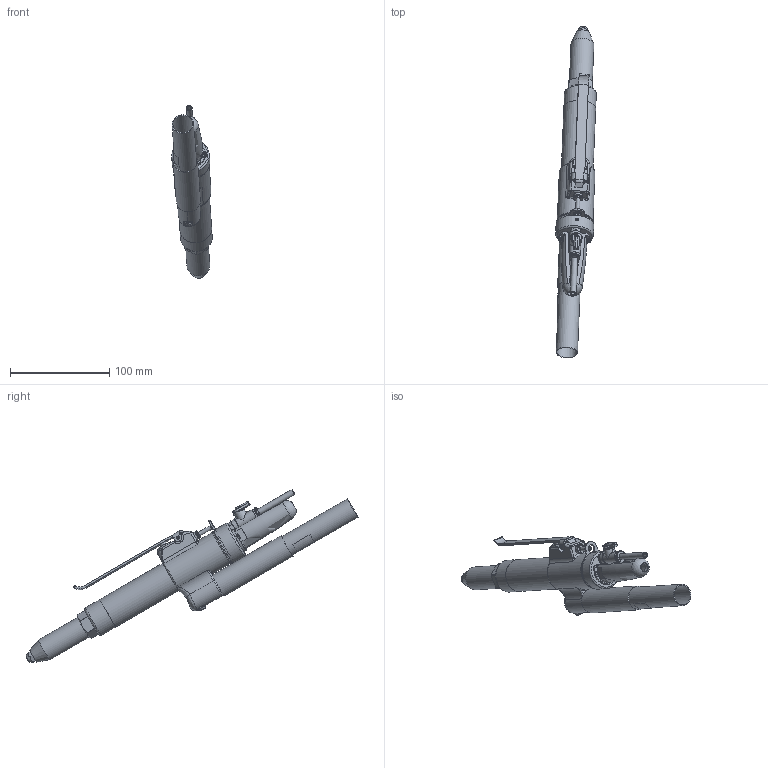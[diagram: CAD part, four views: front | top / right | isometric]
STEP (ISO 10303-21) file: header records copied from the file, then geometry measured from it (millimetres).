
FILE_DESCRIPTION(('HOOPS Exchange Step'),'2;1');
FILE_NAME('/var/folders/1h/hl0qjftd75gfm_yp5bwcfsf00000gn/T/com.shapr3d.shapr/export/temp_export','2023-08-01T09:14:18-05:00',('johnbrekke'),('Shapr3D Limited'),'HOOPS Exchange 2023.1','Shapr3D','Authorized');
FILE_SCHEMA( ('AUTOMOTIVE_DESIGN { 1 0 10303 214 1 1 1 1 }') );
Length unit declared in the file: millimetre
Products named in the file (2): ARV-025M ヘッド部組立図.STEP; root
Assembly tree (1 placements, depth 2):
  root
    ARV-025M ヘッド部組立図.STEP
Bounding box: 40.85 x 334.13 x 174.21 mm (x, y, z)
Volume: 2956 mm3; surface area: 73620.6 mm2
Topology: 2 solids, 29 shells, 362 faces, 1249 edges, 865 vertices
Faces by surface type: plane 137, cylinder 119, torus 53, bspline 26, cone 23, sphere 4
Full cylindrical faces by diameter (mm): 2.4 x1, 2.5 x1, 3 x2, 4 x2, 5.2 x1, 5.6 x2, 6 x1, 7 x1, 7.94 x1, 8 x3, 8.5 x1, 9.1 x1, 9.2 x1, 10 x1, 11.1 x2, 12.5 x1, 18 x1, 20 x1, 21.5 x1, 23 x2, 24 x1, 32 x2, 36 x1, 38 x1
Entity records: 16908 total; most frequent: CARTESIAN_POINT 6635, DIRECTION 2073, ORIENTED_EDGE 2007, EDGE_CURVE 1231, VERTEX_POINT 861, AXIS2_PLACEMENT_3D 812, CIRCLE 470, VECTOR 449
